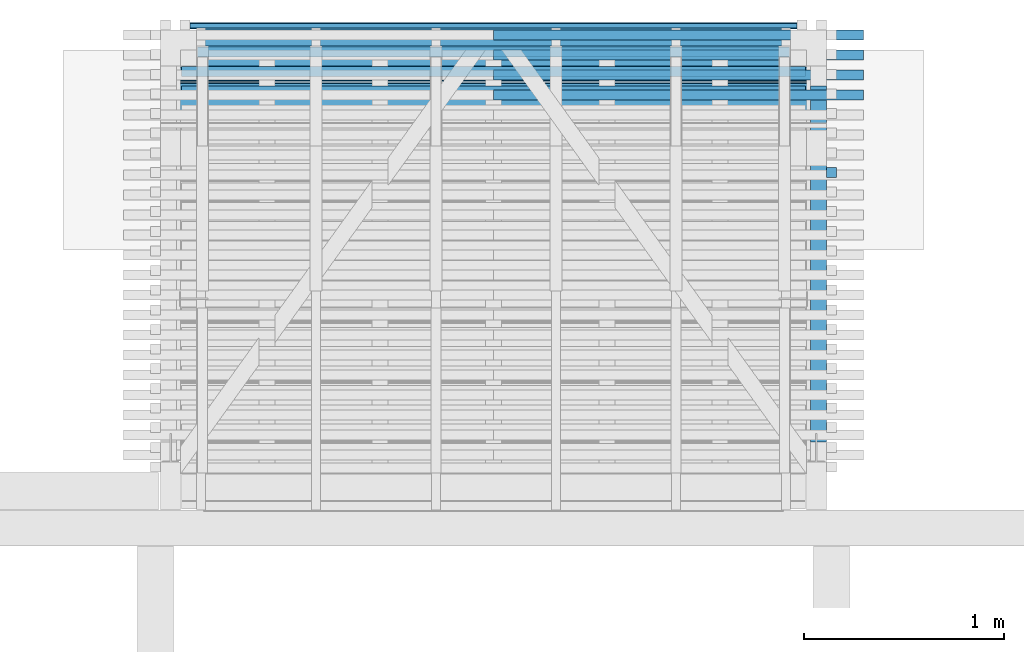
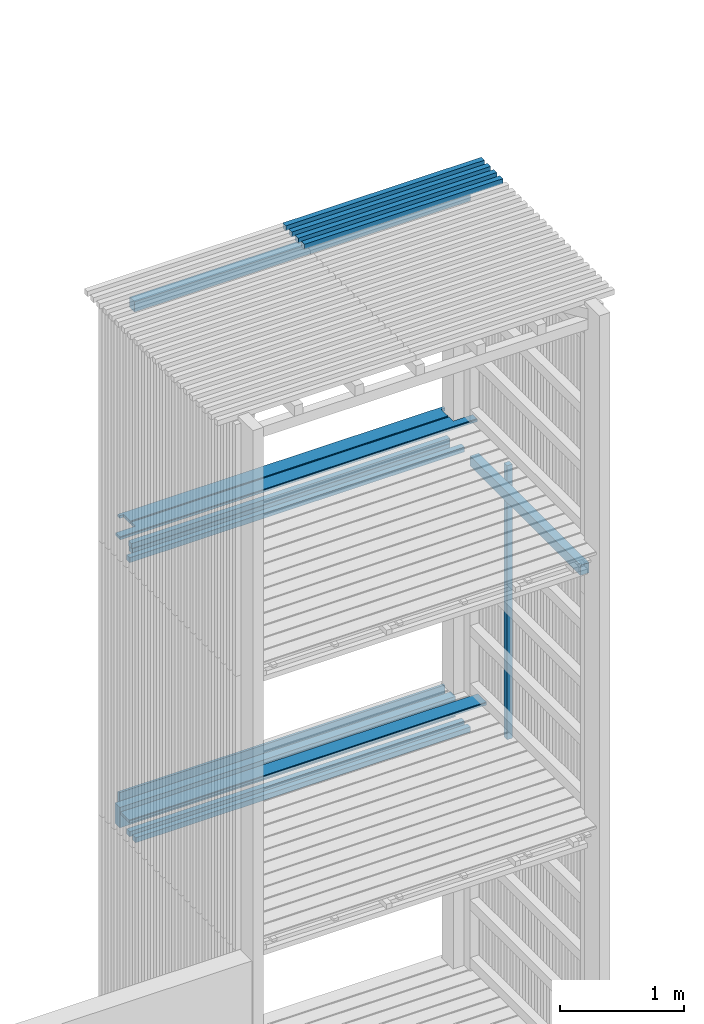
# One storey, part 78 of 182: 17 beams.
"""IFC2X3 building model written with IfcOpenShell, lengths in metres."""

from ifc_helpers import new_model, si_unit, frame, origin, place, context, project, spatial, faceted_brep, element, save


model = new_model("IFC2X3")

# Units and contexts
model_context = context("Model", 3, precision=1e-06, world=origin())
ifc_project = project(units=[si_unit("LENGTHUNIT", "METRE"), si_unit("PLANEANGLEUNIT", "RADIAN")], contexts=[model_context])

# Site, building, storey
site = spatial("IfcSite", under=ifc_project, CompositionType="ELEMENT")
building = spatial("IfcBuilding", under=site, CompositionType="ELEMENT")
storey = spatial("IfcBuildingStorey", under=building, Name="vs", CompositionType="ELEMENT", Elevation=-0.85)

# Beams
placement = place(None, origin())
beam_1_placement = place(placement, frame((26.334999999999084, 10.8100776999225, 7.774999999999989), z_axis=(0.0, 0.0, 1.0), x_axis=(0.0, 1.0, 0.0)))
element("IfcBeam", 1, at=beam_1_placement, inside=storey, Name="Support bardage", context=model_context, shape_type="Brep", body=[
    faceted_brep([(1.779999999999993, -0.039999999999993, 0.050000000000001), (1.779999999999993, -0.039999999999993, -0.050000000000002), (1.779999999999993, 0.04000000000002, -0.050000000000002), (1.779999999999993, 0.04000000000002, 0.050000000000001), (-4e-15, -0.039999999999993, -0.050000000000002), (1.779999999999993, -0.039999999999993, -0.050000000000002), (1.779999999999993, -0.039999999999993, 0.050000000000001), (-4e-15, -0.039999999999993, 0.050000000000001), (-4e-15, 0.04000000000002, -0.050000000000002), (1.779999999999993, 0.04000000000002, -0.050000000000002), (1.779999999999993, -0.039999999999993, -0.050000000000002), (-4e-15, -0.039999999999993, -0.050000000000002), (-4e-15, 0.04000000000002, 0.050000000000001), (1.779999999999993, 0.04000000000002, 0.050000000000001), (1.779999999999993, 0.04000000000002, -0.050000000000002), (-4e-15, 0.04000000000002, -0.050000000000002), (-4e-15, -0.039999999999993, 0.050000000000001), (1.779999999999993, -0.039999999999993, 0.050000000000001), (1.779999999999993, 0.04000000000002, 0.050000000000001), (-4e-15, 0.04000000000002, 0.050000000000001), (-4e-15, -0.039999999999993, -0.050000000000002), (-4e-15, -0.039999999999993, 0.050000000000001), (-4e-15, 0.04000000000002, 0.050000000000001), (-4e-15, 0.04000000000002, -0.050000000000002)], [[[0, 1, 2, 3]], [[4, 5, 6, 7]], [[8, 9, 10, 11]], [[12, 13, 14, 15]], [[16, 17, 18, 19]], [[20, 21, 22, 23]]]),
])
beam_2_placement = place(placement, frame((26.399999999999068, 12.157804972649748, 5.274999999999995), z_axis=(-1.0, 0.0, 0.0), x_axis=(0.0, 0.0, 1.0)))
element("IfcBeam", 2, at=beam_2_placement, inside=storey, Name="Bardage", context=model_context, shape_type="Brep", body=[
    faceted_brep([(1e-15, -0.024999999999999, 0.024999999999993), (1e-15, 0.024999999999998, 0.024999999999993), (1e-15, 0.024999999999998, -0.025000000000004), (1e-15, -0.024999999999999, -0.025000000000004), (2.699999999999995, -0.024999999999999, -0.025000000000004), (2.699999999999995, 0.025000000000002, -0.025000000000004), (2.699999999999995, 0.025000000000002, 0.024999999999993), (2.699999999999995, -0.024999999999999, 0.024999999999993), (1e-15, -0.024999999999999, 0.024999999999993), (1e-15, -0.024999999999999, -0.025000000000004), (2.699999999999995, -0.024999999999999, -0.025000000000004), (2.699999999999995, -0.024999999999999, 0.024999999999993), (2.699999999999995, -0.024999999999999, -0.025000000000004), (1e-15, -0.024999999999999, -0.025000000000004), (1e-15, 0.024999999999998, -0.025000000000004), (2.699999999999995, 0.025000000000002, -0.025000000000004), (2.699999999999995, 0.025000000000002, -0.025000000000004), (1e-15, 0.024999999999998, -0.025000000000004), (1e-15, 0.024999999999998, 0.024999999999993), (2.699999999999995, 0.025000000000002, 0.024999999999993), (2.699999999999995, 0.025000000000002, 0.024999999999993), (1e-15, 0.024999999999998, 0.024999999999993), (1e-15, -0.024999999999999, 0.024999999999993), (2.699999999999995, -0.024999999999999, 0.024999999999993)], [[[0, 1, 2, 3]], [[4, 5, 6, 7]], [[8, 9, 10, 11]], [[12, 13, 14, 15]], [[16, 17, 18, 19]], [[20, 21, 22, 23]]]),
])
beam_3_placement = place(placement, frame((26.559999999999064, 12.845077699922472, 10.47999999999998), z_axis=(0.0, 0.0, 1.0), x_axis=(-1.0, 0.0, 0.0)))
element("IfcBeam", 3, at=beam_3_placement, inside=storey, Name="Bardage", context=model_context, shape_type="Brep", body=[
    faceted_brep([(-3e-15, 0.025000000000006, 0.025000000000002), (-3e-15, -0.024999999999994, 0.025000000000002), (1.849999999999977, -0.024999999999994, 0.025000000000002), (1.849999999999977, 0.025000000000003, 0.025000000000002), (1.849999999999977, -0.024999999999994, 0.025000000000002), (-3e-15, -0.024999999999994, 0.025000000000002), (-3e-15, -0.024999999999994, -0.024999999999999), (1.849999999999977, -0.024999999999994, -0.024999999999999), (-3e-15, -0.024999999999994, 0.025000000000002), (-3e-15, 0.025000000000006, 0.025000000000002), (-3e-15, 0.025000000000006, -0.024999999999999), (-3e-15, -0.024999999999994, -0.024999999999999), (-3e-15, 0.025000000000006, -0.024999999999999), (-3e-15, 0.025000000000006, 0.025000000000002), (1.849999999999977, 0.025000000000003, 0.025000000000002), (1.849999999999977, 0.025000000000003, -0.024999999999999), (1.849999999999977, -0.024999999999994, -0.024999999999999), (-3e-15, -0.024999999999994, -0.024999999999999), (-3e-15, 0.025000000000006, -0.024999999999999), (1.849999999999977, 0.025000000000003, -0.024999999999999), (1.849999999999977, -0.024999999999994, 0.025000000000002), (1.849999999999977, -0.024999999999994, -0.024999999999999), (1.849999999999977, 0.025000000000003, -0.024999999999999), (1.849999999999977, 0.025000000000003, 0.025000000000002)], [[[0, 1, 2, 3]], [[4, 5, 6, 7]], [[8, 9, 10, 11]], [[12, 13, 14, 15]], [[16, 17, 18, 19]], [[20, 21, 22, 23]]]),
])
beam_4_placement = place(placement, frame((26.189999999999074, 12.760077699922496, 7.86739999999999), z_axis=(0.0, 0.0, 1.0), x_axis=(-1.0, 0.0, 0.0)))
element("IfcBeam", 4, at=beam_4_placement, inside=storey, Name="Bardage", context=model_context, shape_type="Brep", body=[
    faceted_brep([(2.96000000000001, -0.024999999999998, 0.025000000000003), (2.96000000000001, -0.024999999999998, -0.024999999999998), (2.96000000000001, 0.025000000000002, -0.024999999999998), (2.96000000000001, 0.025000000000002, 0.025000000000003), (2e-15, 0.024999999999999, 0.025000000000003), (2e-15, 0.024999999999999, -0.024999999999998), (2e-15, -0.024999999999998, -0.024999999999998), (2e-15, -0.024999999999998, 0.025000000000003), (2e-15, -0.024999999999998, -0.024999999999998), (2e-15, 0.024999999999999, -0.024999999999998), (2.96000000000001, 0.025000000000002, -0.024999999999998), (2.96000000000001, -0.024999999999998, -0.024999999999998), (2e-15, 0.024999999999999, -0.024999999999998), (2e-15, 0.024999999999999, 0.025000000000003), (2.96000000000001, 0.025000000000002, 0.025000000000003), (2.96000000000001, 0.025000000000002, -0.024999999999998), (2e-15, 0.024999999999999, 0.025000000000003), (2e-15, -0.024999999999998, 0.025000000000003), (2.96000000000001, -0.024999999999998, 0.025000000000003), (2.96000000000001, 0.025000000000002, 0.025000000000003), (2e-15, -0.024999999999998, 0.025000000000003), (2e-15, -0.024999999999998, -0.024999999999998), (2.96000000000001, -0.024999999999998, -0.024999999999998), (2.96000000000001, -0.024999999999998, 0.025000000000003)], [[[0, 1, 2, 3]], [[4, 5, 6, 7]], [[8, 9, 10, 11]], [[12, 13, 14, 15]], [[16, 17, 18, 19]], [[20, 21, 22, 23]]]),
])
beam_5_placement = place(placement, frame((26.269999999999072, 12.662994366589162, 5.167399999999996), z_axis=(0.0, 0.0, 1.0), x_axis=(-1.0, -1e-15, 0.0)))
element("IfcBeam", 5, at=beam_5_placement, inside=storey, Name="Bardage", context=model_context, shape_type="Brep", body=[
    faceted_brep([(3.120000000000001, 0.024999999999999, -0.025), (3.120000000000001, 0.024999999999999, 0.025), (3.120000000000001, -0.025000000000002, 0.025), (3.120000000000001, -0.025000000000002, -0.025), (-3e-15, -0.024999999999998, -0.025), (-3e-15, -0.024999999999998, 0.025), (-3e-15, 0.025000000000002, 0.025), (-3e-15, 0.025000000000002, -0.025), (-3e-15, 0.025000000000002, -0.025), (-3e-15, 0.025000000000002, 0.025), (3.120000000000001, 0.024999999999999, 0.025), (3.120000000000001, 0.024999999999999, -0.025), (-3e-15, 0.025000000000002, 0.025), (-3e-15, -0.024999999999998, 0.025), (3.120000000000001, -0.025000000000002, 0.025), (3.120000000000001, 0.024999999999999, 0.025), (-3e-15, -0.024999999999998, 0.025), (-3e-15, -0.024999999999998, -0.025), (3.120000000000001, -0.025000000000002, -0.025), (3.120000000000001, -0.025000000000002, 0.025), (-3e-15, -0.024999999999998, -0.025), (-3e-15, 0.025000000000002, -0.025), (3.120000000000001, 0.024999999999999, -0.025), (3.120000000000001, -0.025000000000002, -0.025)], [[[0, 1, 2, 3]], [[4, 5, 6, 7]], [[8, 9, 10, 11]], [[12, 13, 14, 15]], [[16, 17, 18, 19]], [[20, 21, 22, 23]]]),
])
beam_6_placement = place(placement, frame((26.269999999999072, 12.662994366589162, 7.86739999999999), z_axis=(0.0, 0.0, 1.0), x_axis=(-1.0, -1e-15, 0.0)))
element("IfcBeam", 6, at=beam_6_placement, inside=storey, Name="Bardage", context=model_context, shape_type="Brep", body=[
    faceted_brep([(3.120000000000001, 0.024999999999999, -0.024999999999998), (3.120000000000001, 0.024999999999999, 0.025000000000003), (3.120000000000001, -0.025000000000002, 0.025000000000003), (3.120000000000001, -0.025000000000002, -0.024999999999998), (-3e-15, -0.024999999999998, -0.024999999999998), (-3e-15, -0.024999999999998, 0.025000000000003), (-3e-15, 0.025000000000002, 0.025000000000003), (-3e-15, 0.025000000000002, -0.024999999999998), (-3e-15, 0.025000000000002, -0.024999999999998), (-3e-15, 0.025000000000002, 0.025000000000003), (3.120000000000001, 0.024999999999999, 0.025000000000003), (3.120000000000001, 0.024999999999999, -0.024999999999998), (-3e-15, 0.025000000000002, 0.025000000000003), (-3e-15, -0.024999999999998, 0.025000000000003), (3.120000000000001, -0.025000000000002, 0.025000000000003), (3.120000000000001, 0.024999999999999, 0.025000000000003), (-3e-15, -0.024999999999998, 0.025000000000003), (-3e-15, -0.024999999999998, -0.024999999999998), (3.120000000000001, -0.025000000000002, -0.024999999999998), (3.120000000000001, -0.025000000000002, 0.025000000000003), (-3e-15, -0.024999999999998, -0.024999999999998), (-3e-15, 0.025000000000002, -0.024999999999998), (3.120000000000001, 0.024999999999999, -0.024999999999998), (3.120000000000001, -0.025000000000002, -0.024999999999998)], [[[0, 1, 2, 3]], [[4, 5, 6, 7]], [[8, 9, 10, 11]], [[12, 13, 14, 15]], [[16, 17, 18, 19]], [[20, 21, 22, 23]]]),
])
beam_7_placement = place(placement, frame((26.274999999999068, 12.830077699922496, 5.239999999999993), z_axis=(0.0, 0.0, 1.0), x_axis=(-1.0, 0.0, 0.0)))
element("IfcBeam", 7, at=beam_7_placement, inside=storey, Name="Sommier", context=model_context, shape_type="Brep", body=[
    faceted_brep([(3.129999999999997, -0.039999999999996, 0.100000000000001), (3.129999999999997, 0.040000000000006, 0.100000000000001), (1e-15, 0.040000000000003, 0.100000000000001), (1e-15, -0.039999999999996, 0.100000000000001), (3.129999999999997, -0.039999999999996, -0.1), (3.129999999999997, -0.039999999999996, 0.100000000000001), (1e-15, -0.039999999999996, 0.100000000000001), (1e-15, -0.039999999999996, -0.1), (3.129999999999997, -0.039999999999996, 0.100000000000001), (3.129999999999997, -0.039999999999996, -0.1), (3.129999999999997, 0.040000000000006, -0.099999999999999), (3.129999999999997, 0.040000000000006, 0.100000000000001), (3.129999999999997, 0.040000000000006, -0.099999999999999), (3.129999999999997, -0.039999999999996, -0.1), (1e-15, -0.039999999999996, -0.1), (1e-15, 0.040000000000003, -0.1), (1e-15, 0.040000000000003, 0.100000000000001), (3.129999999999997, 0.040000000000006, 0.100000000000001), (3.129999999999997, 0.040000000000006, -0.099999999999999), (1e-15, 0.040000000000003, -0.1), (1e-15, -0.039999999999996, 0.100000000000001), (1e-15, 0.040000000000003, 0.100000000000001), (1e-15, 0.040000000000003, -0.1), (1e-15, -0.039999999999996, -0.1)], [[[0, 1, 2, 3]], [[4, 5, 6, 7]], [[8, 9, 10, 11]], [[12, 13, 14, 15]], [[16, 17, 18, 19]], [[20, 21, 22, 23]]]),
])
beam_8_placement = place(placement, frame((26.226818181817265, 12.834577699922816, 8.13349999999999), z_axis=(0.0, 0.0, 1.0), x_axis=(-1.0, 0.0, 0.0)))
element("IfcBeam", 8, at=beam_8_placement, inside=storey, Name="Caillebotis", context=model_context, shape_type="Brep", body=[
    faceted_brep([(3.033636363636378, -0.072499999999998, -0.013500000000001), (3.033636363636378, -0.072499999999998, 0.0085), (2e-15, -0.072499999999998, 0.0085), (2e-15, -0.072499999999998, -0.013500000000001), (2.996818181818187, 0.072500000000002, 0.008499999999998), (2.996818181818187, 0.067500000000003, 0.013499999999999), (2.996818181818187, -0.040499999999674, 0.013499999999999), (2.996818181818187, -0.040499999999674, -0.013500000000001), (2.996818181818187, 0.072500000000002, -0.013500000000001), (0.036818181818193, -0.040499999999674, -0.013500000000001), (0.036818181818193, 0.072499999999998, -0.013500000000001), (2.996818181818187, 0.072500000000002, -0.013500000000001), (2.996818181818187, -0.040499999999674, -0.013500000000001), (3.033636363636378, -0.040499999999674, -0.013500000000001), (3.033636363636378, -0.072499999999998, -0.013500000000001), (2e-15, -0.072499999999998, -0.013500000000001), (2e-15, -0.040499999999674, -0.013500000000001), (3.033636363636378, -0.072499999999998, 0.0085), (3.033636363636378, -0.072499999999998, -0.013500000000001), (3.033636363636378, -0.040499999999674, -0.013500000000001), (3.033636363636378, -0.040499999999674, 0.013499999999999), (3.033636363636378, -0.067500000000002, 0.013499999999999), (3.033636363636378, -0.040499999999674, 0.013499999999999), (3.033636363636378, -0.040499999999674, -0.013500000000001), (2.996818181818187, -0.040499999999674, -0.013500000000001), (2.996818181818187, -0.040499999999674, 0.013499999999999), (2.996818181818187, 0.072500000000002, 0.008499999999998), (2.996818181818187, 0.072500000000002, -0.013500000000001), (0.036818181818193, 0.072499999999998, -0.013500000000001), (0.036818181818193, 0.072499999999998, 0.0085), (2.996818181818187, 0.067500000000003, 0.013499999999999), (2.996818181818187, 0.072500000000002, 0.008499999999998), (0.036818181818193, 0.072499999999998, 0.0085), (0.036818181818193, 0.067500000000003, 0.013499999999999), (0.036818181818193, 0.067500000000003, 0.013499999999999), (0.036818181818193, 0.072499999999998, 0.0085), (0.036818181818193, 0.072499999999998, -0.013500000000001), (0.036818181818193, -0.040499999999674, -0.013500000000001), (0.036818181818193, -0.040499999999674, 0.013499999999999), (0.036818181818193, -0.040499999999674, 0.013499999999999), (0.036818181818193, -0.040499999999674, -0.013500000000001), (2e-15, -0.040499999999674, -0.013500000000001), (2e-15, -0.040499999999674, 0.013499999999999), (3.033636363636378, -0.067500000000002, 0.013499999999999), (3.033636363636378, -0.040499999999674, 0.013499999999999), (2.996818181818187, -0.040499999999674, 0.013499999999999), (2.996818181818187, 0.067500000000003, 0.013499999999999), (0.036818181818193, 0.067500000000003, 0.013499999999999), (0.036818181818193, -0.040499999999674, 0.013499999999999), (2e-15, -0.040499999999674, 0.013499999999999), (2e-15, -0.067500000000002, 0.013499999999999), (2e-15, -0.072499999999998, 0.0085), (3.033636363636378, -0.072499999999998, 0.0085), (3.033636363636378, -0.067500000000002, 0.013499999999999), (2e-15, -0.067500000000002, 0.013499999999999), (2e-15, -0.072499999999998, -0.013500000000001), (2e-15, -0.072499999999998, 0.0085), (2e-15, -0.067500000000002, 0.013499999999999), (2e-15, -0.040499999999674, 0.013499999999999), (2e-15, -0.040499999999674, -0.013500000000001)], [[[0, 1, 2, 3]], [[4, 5, 6, 7, 8]], [[9, 10, 11, 12, 13, 14, 15, 16]], [[17, 18, 19, 20, 21]], [[22, 23, 24, 25]], [[26, 27, 28, 29]], [[30, 31, 32, 33]], [[34, 35, 36, 37, 38]], [[39, 40, 41, 42]], [[43, 44, 45, 46, 47, 48, 49, 50]], [[51, 52, 53, 54]], [[55, 56, 57, 58, 59]]]),
])
beam_9_placement = place(placement, frame((26.35499999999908, 12.730077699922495, 10.30499999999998), z_axis=(0.0, 0.0, 1.0), x_axis=(-1.0, 0.0, 0.0)))
element("IfcBeam", 9, at=beam_9_placement, inside=storey, Name="Support bardage", context=model_context, shape_type="Brep", body=[
    faceted_brep([(3e-15, 0.04, -0.050000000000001), (3e-15, -0.039999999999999, -0.050000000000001), (3e-15, -0.039999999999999, 0.050000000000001), (3e-15, 0.04, 0.050000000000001), (3.129999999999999, -0.039999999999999, 0.050000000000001), (3.129999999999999, -0.039999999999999, -0.050000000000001), (3.129999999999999, 0.04, -0.050000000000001), (3.129999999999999, 0.04, 0.050000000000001), (3e-15, -0.039999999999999, -0.050000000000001), (3e-15, 0.04, -0.050000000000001), (3.129999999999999, 0.04, -0.050000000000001), (3.129999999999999, -0.039999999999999, -0.050000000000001), (3e-15, -0.039999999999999, 0.050000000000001), (3e-15, -0.039999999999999, -0.050000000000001), (3.129999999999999, -0.039999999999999, -0.050000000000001), (3.129999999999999, -0.039999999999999, 0.050000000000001), (3e-15, 0.04, 0.050000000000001), (3e-15, -0.039999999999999, 0.050000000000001), (3.129999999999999, -0.039999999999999, 0.050000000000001), (3.129999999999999, 0.04, 0.050000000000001), (3.129999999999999, 0.04, -0.050000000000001), (3e-15, 0.04, -0.050000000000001), (3e-15, 0.04, 0.050000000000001), (3.129999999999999, 0.04, 0.050000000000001)], [[[0, 1, 2, 3]], [[4, 5, 6, 7]], [[8, 9, 10, 11]], [[12, 13, 14, 15]], [[16, 17, 18, 19]], [[20, 21, 22, 23]]]),
])
beam_10_placement = place(placement, frame((23.19318181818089, 12.893577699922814, 5.342499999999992), z_axis=(0.0, 1.0, 0.0), x_axis=(1.0, 0.0, 0.0)))
element("IfcBeam", 10, at=beam_10_placement, inside=storey, Name="Caillebotis", context=model_context, shape_type="Brep", body=[
    faceted_brep([(-3e-15, -0.072500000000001, -0.013500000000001), (-3e-15, 0.072499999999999, -0.013500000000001), (3.033636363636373, 0.072499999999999, -0.013499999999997), (3.033636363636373, -0.072500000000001, -0.013499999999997), (-3e-15, -0.072500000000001, 0.008500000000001), (-3e-15, -0.072500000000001, -0.013500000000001), (3.033636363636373, -0.072500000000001, -0.013499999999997), (3.033636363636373, -0.072500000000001, 0.008500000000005), (-3e-15, -0.067500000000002, 0.0135), (-3e-15, -0.072500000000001, 0.008500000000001), (3.033636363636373, -0.072500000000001, 0.008500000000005), (3.033636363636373, -0.067500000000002, 0.013500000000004), (-3e-15, -0.072500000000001, -0.013500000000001), (-3e-15, -0.072500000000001, 0.008500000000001), (-3e-15, -0.067500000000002, 0.0135), (-3e-15, 0.0675, 0.0135), (-3e-15, 0.072499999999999, 0.008500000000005), (-3e-15, 0.072499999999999, -0.013500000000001), (-3e-15, 0.0675, 0.0135), (-3e-15, -0.067500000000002, 0.0135), (3.033636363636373, -0.067500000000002, 0.013500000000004), (3.033636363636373, 0.0675, 0.013500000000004), (-3e-15, 0.072499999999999, 0.008500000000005), (-3e-15, 0.0675, 0.0135), (3.033636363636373, 0.0675, 0.013500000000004), (3.033636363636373, 0.072499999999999, 0.008500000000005), (3.033636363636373, 0.072499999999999, -0.013499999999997), (-3e-15, 0.072499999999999, -0.013500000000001), (-3e-15, 0.072499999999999, 0.008500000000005), (3.033636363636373, 0.072499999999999, 0.008500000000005), (3.033636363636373, -0.072500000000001, 0.008500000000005), (3.033636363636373, -0.072500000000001, -0.013499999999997), (3.033636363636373, 0.072499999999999, -0.013499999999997), (3.033636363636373, 0.072499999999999, 0.008500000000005), (3.033636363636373, 0.0675, 0.013500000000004), (3.033636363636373, -0.067500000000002, 0.013500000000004)], [[[0, 1, 2, 3]], [[4, 5, 6, 7]], [[8, 9, 10, 11]], [[12, 13, 14, 15, 16, 17]], [[18, 19, 20, 21]], [[22, 23, 24, 25]], [[26, 27, 28, 29]], [[30, 31, 32, 33, 34, 35]]]),
])
beam_11_placement = place(placement, frame((26.559999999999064, 12.645077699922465, 10.47999999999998), z_axis=(0.0, 0.0, 1.0), x_axis=(-1.0, 0.0, 0.0)))
element("IfcBeam", 11, at=beam_11_placement, inside=storey, Name="Bardage", context=model_context, shape_type="Brep", body=[
    faceted_brep([(-3e-15, 0.024999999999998, 0.025000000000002), (-3e-15, -0.025000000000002, 0.025000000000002), (1.849999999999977, -0.025000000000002, 0.025000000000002), (1.849999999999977, 0.024999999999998, 0.025000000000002), (1.849999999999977, -0.025000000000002, 0.025000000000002), (-3e-15, -0.025000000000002, 0.025000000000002), (-3e-15, -0.025000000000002, -0.024999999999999), (1.849999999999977, -0.025000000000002, -0.024999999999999), (-3e-15, -0.025000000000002, 0.025000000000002), (-3e-15, 0.024999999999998, 0.025000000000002), (-3e-15, 0.024999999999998, -0.024999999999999), (-3e-15, -0.025000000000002, -0.024999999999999), (-3e-15, 0.024999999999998, -0.024999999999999), (-3e-15, 0.024999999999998, 0.025000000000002), (1.849999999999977, 0.024999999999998, 0.025000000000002), (1.849999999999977, 0.024999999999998, -0.024999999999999), (1.849999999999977, -0.025000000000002, -0.024999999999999), (-3e-15, -0.025000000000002, -0.024999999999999), (-3e-15, 0.024999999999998, -0.024999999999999), (1.849999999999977, 0.024999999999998, -0.024999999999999), (1.849999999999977, -0.025000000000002, 0.025000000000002), (1.849999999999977, -0.025000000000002, -0.024999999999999), (1.849999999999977, 0.024999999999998, -0.024999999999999), (1.849999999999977, 0.024999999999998, 0.025000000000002)], [[[0, 1, 2, 3]], [[4, 5, 6, 7]], [[8, 9, 10, 11]], [[12, 13, 14, 15]], [[16, 17, 18, 19]], [[20, 21, 22, 23]]]),
])
beam_12_placement = place(placement, frame((26.269999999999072, 12.565911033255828, 5.167399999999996), z_axis=(0.0, 0.0, 1.0), x_axis=(-1.0, 0.0, 0.0)))
element("IfcBeam", 12, at=beam_12_placement, inside=storey, Name="Bardage", context=model_context, shape_type="Brep", body=[
    faceted_brep([(3.120000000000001, 0.025000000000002, -0.025), (3.120000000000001, 0.025000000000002, 0.024999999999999), (3.120000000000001, -0.024999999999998, 0.024999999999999), (3.120000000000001, -0.024999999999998, -0.025), (-3e-15, -0.024999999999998, -0.025), (-3e-15, -0.024999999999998, 0.024999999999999), (-3e-15, 0.024999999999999, 0.024999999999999), (-3e-15, 0.024999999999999, -0.025), (-3e-15, 0.024999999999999, -0.025), (-3e-15, 0.024999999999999, 0.024999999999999), (3.120000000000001, 0.025000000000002, 0.024999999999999), (3.120000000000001, 0.025000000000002, -0.025), (-3e-15, 0.024999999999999, 0.024999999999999), (-3e-15, -0.024999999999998, 0.024999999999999), (3.120000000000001, -0.024999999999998, 0.024999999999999), (3.120000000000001, 0.025000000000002, 0.024999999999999), (-3e-15, -0.024999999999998, 0.024999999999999), (-3e-15, -0.024999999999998, -0.025), (3.120000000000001, -0.024999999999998, -0.025), (3.120000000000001, -0.024999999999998, 0.024999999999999), (-3e-15, -0.024999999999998, -0.025), (-3e-15, 0.024999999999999, -0.025), (3.120000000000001, 0.025000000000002, -0.025), (3.120000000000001, -0.024999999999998, -0.025)], [[[0, 1, 2, 3]], [[4, 5, 6, 7]], [[8, 9, 10, 11]], [[12, 13, 14, 15]], [[16, 17, 18, 19]], [[20, 21, 22, 23]]]),
])
beam_13_placement = place(placement, frame((26.374999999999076, 12.534577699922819, 5.433499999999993), z_axis=(0.0, 0.0, 1.0), x_axis=(-1.0, -1e-15, 0.0)))
element("IfcBeam", 13, at=beam_13_placement, inside=storey, Name="Caillebotis", context=model_context, shape_type="Brep", body=[
    faceted_brep([(3.329999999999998, -0.072500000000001, -0.0135), (3.329999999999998, 0.072500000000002, -0.0135), (3.329999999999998, 0.072500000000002, 0.008500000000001), (3.329999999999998, 0.067499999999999, 0.0135), (3.329999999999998, -0.067499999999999, 0.0135), (3.329999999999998, -0.072500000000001, 0.008500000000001), (0.0, -0.072499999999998, 0.008500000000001), (0.0, -0.067499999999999, 0.0135), (0.0, 0.067500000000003, 0.0135), (0.0, 0.072500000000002, 0.008500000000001), (0.0, 0.072500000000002, -0.0135), (0.0, -0.072499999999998, -0.0135), (3.329999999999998, 0.072500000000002, 0.008500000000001), (3.329999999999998, 0.072500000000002, -0.0135), (0.0, 0.072500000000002, -0.0135), (0.0, 0.072500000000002, 0.008500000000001), (3.329999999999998, 0.067499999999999, 0.0135), (3.329999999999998, 0.072500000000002, 0.008500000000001), (0.0, 0.072500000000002, 0.008500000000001), (0.0, 0.067500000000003, 0.0135), (3.329999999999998, -0.067499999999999, 0.0135), (3.329999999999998, 0.067499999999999, 0.0135), (0.0, 0.067500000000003, 0.0135), (0.0, -0.067499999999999, 0.0135), (3.329999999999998, -0.072500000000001, 0.008500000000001), (3.329999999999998, -0.067499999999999, 0.0135), (0.0, -0.067499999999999, 0.0135), (0.0, -0.072499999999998, 0.008500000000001), (3.329999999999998, -0.072500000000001, -0.0135), (3.329999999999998, -0.072500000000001, 0.008500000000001), (0.0, -0.072499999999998, 0.008500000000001), (0.0, -0.072499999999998, -0.0135), (0.0, 0.072500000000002, -0.0135), (3.329999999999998, 0.072500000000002, -0.0135), (3.329999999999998, -0.072500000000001, -0.0135), (0.0, -0.072499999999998, -0.0135)], [[[0, 1, 2, 3, 4, 5]], [[6, 7, 8, 9, 10, 11]], [[12, 13, 14, 15]], [[16, 17, 18, 19]], [[20, 21, 22, 23]], [[24, 25, 26, 27]], [[28, 29, 30, 31]], [[32, 33, 34, 35]]]),
])
beam_14_placement = place(placement, frame((26.559999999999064, 12.545077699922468, 10.47999999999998), z_axis=(0.0, 0.0, 1.0), x_axis=(-1.0, 0.0, 0.0)))
element("IfcBeam", 14, at=beam_14_placement, inside=storey, Name="Bardage", context=model_context, shape_type="Brep", body=[
    faceted_brep([(-3e-15, 0.025000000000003, 0.025000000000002), (-3e-15, -0.024999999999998, 0.025000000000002), (1.849999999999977, -0.025000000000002, 0.025000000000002), (1.849999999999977, 0.025000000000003, 0.025000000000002), (1.849999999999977, -0.025000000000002, 0.025000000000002), (-3e-15, -0.024999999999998, 0.025000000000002), (-3e-15, -0.024999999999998, -0.024999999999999), (1.849999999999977, -0.025000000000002, -0.024999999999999), (-3e-15, -0.024999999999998, 0.025000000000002), (-3e-15, 0.025000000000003, 0.025000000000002), (-3e-15, 0.025000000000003, -0.024999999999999), (-3e-15, -0.024999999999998, -0.024999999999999), (-3e-15, 0.025000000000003, -0.024999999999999), (-3e-15, 0.025000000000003, 0.025000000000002), (1.849999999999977, 0.025000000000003, 0.025000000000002), (1.849999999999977, 0.025000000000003, -0.024999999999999), (1.849999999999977, -0.025000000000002, -0.024999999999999), (-3e-15, -0.024999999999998, -0.024999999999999), (-3e-15, 0.025000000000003, -0.024999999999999), (1.849999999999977, 0.025000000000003, -0.024999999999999), (1.849999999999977, -0.025000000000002, 0.025000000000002), (1.849999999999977, -0.025000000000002, -0.024999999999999), (1.849999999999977, 0.025000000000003, -0.024999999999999), (1.849999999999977, 0.025000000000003, 0.025000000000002)], [[[0, 1, 2, 3]], [[4, 5, 6, 7]], [[8, 9, 10, 11]], [[12, 13, 14, 15]], [[16, 17, 18, 19]], [[20, 21, 22, 23]]]),
])
beam_15_placement = place(placement, frame((23.22499999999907, 12.765077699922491, 7.917399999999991), z_axis=(0.0, 0.0, 1.0), x_axis=(1.0, 1e-15, 0.0)))
element("IfcBeam", 15, at=beam_15_placement, inside=storey, Name="Ligneul", context=model_context, shape_type="Brep", body=[
    faceted_brep([(2e-15, 0.025000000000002, -0.025000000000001), (2.970000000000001, 0.025000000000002, -0.025000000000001), (2.970000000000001, -0.025000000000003, -0.025000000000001), (2e-15, -0.024999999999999, -0.025000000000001), (2e-15, -0.024999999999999, 0.024999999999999), (2e-15, 0.025000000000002, 0.024999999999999), (2e-15, 0.025000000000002, -0.025000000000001), (2e-15, -0.024999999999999, -0.025000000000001), (2e-15, -0.024999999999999, 0.024999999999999), (2e-15, -0.024999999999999, -0.025000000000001), (2.970000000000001, -0.025000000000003, -0.025000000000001), (2.970000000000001, -0.025000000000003, 0.024999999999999), (2.970000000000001, -0.025000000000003, 0.024999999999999), (2.970000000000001, -0.025000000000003, -0.025000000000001), (2.970000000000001, 0.025000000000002, -0.025000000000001), (2.970000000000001, 0.025000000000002, 0.024999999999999), (2e-15, 0.025000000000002, 0.024999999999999), (2e-15, -0.024999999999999, 0.024999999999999), (2.970000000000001, -0.025000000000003, 0.024999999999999), (2.970000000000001, 0.025000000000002, 0.024999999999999), (2.970000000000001, 0.025000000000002, -0.025000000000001), (2e-15, 0.025000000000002, -0.025000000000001), (2e-15, 0.025000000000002, 0.024999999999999), (2.970000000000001, 0.025000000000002, 0.024999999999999)], [[[0, 1, 2, 3]], [[4, 5, 6, 7]], [[8, 9, 10, 11]], [[12, 13, 14, 15]], [[16, 17, 18, 19]], [[20, 21, 22, 23]]]),
])
beam_16_placement = place(placement, frame((26.374999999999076, 12.684577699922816, 8.13349999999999), z_axis=(0.0, 0.0, 1.0), x_axis=(-1.0, 0.0, 0.0)))
element("IfcBeam", 16, at=beam_16_placement, inside=storey, Name="Caillebotis", context=model_context, shape_type="Brep", body=[
    faceted_brep([(3.144999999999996, -0.000499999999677, 0.013499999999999), (3.144999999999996, -0.000499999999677, -0.013500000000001), (3.329999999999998, -0.000499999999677, -0.013500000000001), (3.329999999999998, -0.000499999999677, 0.013499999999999), (3.329999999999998, 0.072500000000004, -0.013500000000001), (3.329999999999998, 0.072500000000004, 0.0085), (3.329999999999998, 0.067500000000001, 0.013499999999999), (3.329999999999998, -0.000499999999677, 0.013499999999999), (3.329999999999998, -0.000499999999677, -0.013500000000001), (3.144999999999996, -0.072499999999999, 0.0085), (3.144999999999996, -0.072499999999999, -0.013500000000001), (3.144999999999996, -0.000499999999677, -0.013500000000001), (3.144999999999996, -0.000499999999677, 0.013499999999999), (3.144999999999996, -0.067499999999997, 0.013499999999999), (3.144999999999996, -0.072499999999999, -0.013500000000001), (3.144999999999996, -0.072499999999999, 0.0085), (0.185000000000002, -0.072499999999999, 0.008500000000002), (0.185000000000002, -0.072499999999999, -0.013500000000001), (3.144999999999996, -0.072499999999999, 0.0085), (3.144999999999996, -0.067499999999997, 0.013499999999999), (0.185000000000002, -0.0675, 0.013499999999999), (0.185000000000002, -0.072499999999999, 0.008500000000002), (0.185000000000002, -0.072499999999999, -0.013500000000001), (0.185000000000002, -0.072499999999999, 0.008500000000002), (0.185000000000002, -0.0675, 0.013499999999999), (0.185000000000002, -0.000499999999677, 0.013499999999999), (0.185000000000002, -0.000499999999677, -0.013500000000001), (0.0, -0.000499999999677, 0.013499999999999), (0.0, 0.067500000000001, 0.013499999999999), (0.0, 0.0725, 0.0085), (0.0, 0.0725, -0.013500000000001), (0.0, -0.000499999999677, -0.013500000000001), (3.329999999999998, 0.072500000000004, 0.0085), (3.329999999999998, 0.072500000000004, -0.013500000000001), (0.0, 0.0725, -0.013500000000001), (0.0, 0.0725, 0.0085), (3.329999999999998, 0.067500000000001, 0.013499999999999), (3.329999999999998, 0.072500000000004, 0.0085), (0.0, 0.0725, 0.0085), (0.0, 0.067500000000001, 0.013499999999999), (3.144999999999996, -0.067499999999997, 0.013499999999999), (3.144999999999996, -0.000499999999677, 0.013499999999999), (3.329999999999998, -0.000499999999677, 0.013499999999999), (3.329999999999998, 0.067500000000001, 0.013499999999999), (0.0, 0.067500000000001, 0.013499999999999), (0.0, -0.000499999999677, 0.013499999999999), (0.185000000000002, -0.000499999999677, 0.013499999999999), (0.185000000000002, -0.0675, 0.013499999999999), (0.185000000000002, -0.000499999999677, -0.013500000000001), (0.185000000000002, -0.000499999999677, 0.013499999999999), (0.0, -0.000499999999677, 0.013499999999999), (0.0, -0.000499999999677, -0.013500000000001), (0.0, -0.000499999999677, -0.013500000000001), (0.0, 0.0725, -0.013500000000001), (3.329999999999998, 0.072500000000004, -0.013500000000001), (3.329999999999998, -0.000499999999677, -0.013500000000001), (3.144999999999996, -0.000499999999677, -0.013500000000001), (3.144999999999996, -0.072499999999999, -0.013500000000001), (0.185000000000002, -0.072499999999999, -0.013500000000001), (0.185000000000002, -0.000499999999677, -0.013500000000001)], [[[0, 1, 2, 3]], [[4, 5, 6, 7, 8]], [[9, 10, 11, 12, 13]], [[14, 15, 16, 17]], [[18, 19, 20, 21]], [[22, 23, 24, 25, 26]], [[27, 28, 29, 30, 31]], [[32, 33, 34, 35]], [[36, 37, 38, 39]], [[40, 41, 42, 43, 44, 45, 46, 47]], [[48, 49, 50, 51]], [[52, 53, 54, 55, 56, 57, 58, 59]]]),
])
beam_17_placement = place(placement, frame((26.559999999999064, 12.745077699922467, 10.47999999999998), z_axis=(0.0, 0.0, 1.0), x_axis=(-1.0, 0.0, 0.0)))
element("IfcBeam", 17, at=beam_17_placement, inside=storey, Name="Bardage", context=model_context, shape_type="Brep", body=[
    faceted_brep([(-3e-15, 0.024999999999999, 0.025000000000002), (-3e-15, -0.024999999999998, 0.025000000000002), (1.849999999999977, -0.024999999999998, 0.025000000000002), (1.849999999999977, 0.024999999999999, 0.025000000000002), (1.849999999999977, -0.024999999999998, 0.025000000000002), (-3e-15, -0.024999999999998, 0.025000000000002), (-3e-15, -0.024999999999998, -0.024999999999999), (1.849999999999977, -0.024999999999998, -0.024999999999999), (-3e-15, -0.024999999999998, 0.025000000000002), (-3e-15, 0.024999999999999, 0.025000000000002), (-3e-15, 0.024999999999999, -0.024999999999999), (-3e-15, -0.024999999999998, -0.024999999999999), (-3e-15, 0.024999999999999, -0.024999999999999), (-3e-15, 0.024999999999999, 0.025000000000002), (1.849999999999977, 0.024999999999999, 0.025000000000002), (1.849999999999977, 0.024999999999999, -0.024999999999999), (1.849999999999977, -0.024999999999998, -0.024999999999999), (-3e-15, -0.024999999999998, -0.024999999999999), (-3e-15, 0.024999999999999, -0.024999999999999), (1.849999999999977, 0.024999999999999, -0.024999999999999), (1.849999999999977, -0.024999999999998, 0.025000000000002), (1.849999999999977, -0.024999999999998, -0.024999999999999), (1.849999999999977, 0.024999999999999, -0.024999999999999), (1.849999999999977, 0.024999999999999, 0.025000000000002)], [[[0, 1, 2, 3]], [[4, 5, 6, 7]], [[8, 9, 10, 11]], [[12, 13, 14, 15]], [[16, 17, 18, 19]], [[20, 21, 22, 23]]]),
])

save(model, "model.ifc")
